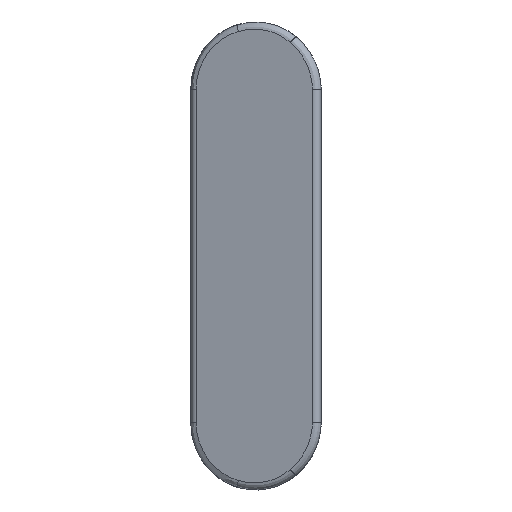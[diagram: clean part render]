
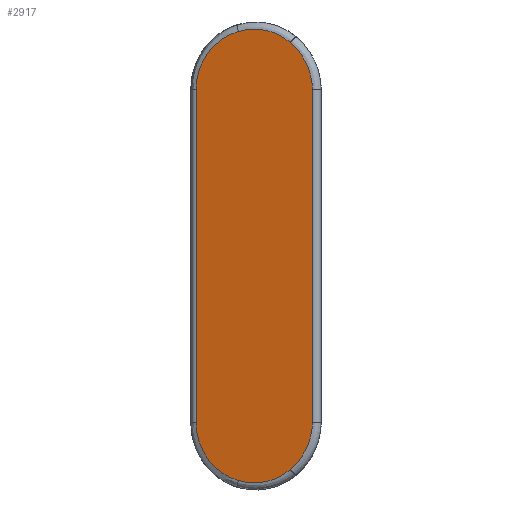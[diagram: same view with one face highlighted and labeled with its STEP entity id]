
A CAD part, front view. The second image highlights one B-rep face of the part: STEP entity #2917.
In plain terms, the highlighted planar face has unit normal (-0.25, -0.968, 0).
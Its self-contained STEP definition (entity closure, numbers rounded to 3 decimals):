
#76 = ORIENTED_EDGE ( 'NONE', *, *, #5474, .T. ) ;
#124 = B_SPLINE_CURVE_WITH_KNOTS ( 'NONE', 3,
 ( #2202, #3110, #5778, #4471, #3503, #5370, #4844, #4043 ),
 .UNSPECIFIED., .F., .F.,
 ( 4, 2, 2, 4 ),
 ( 0., 0.307, 0.614, 1. ),
 .UNSPECIFIED. ) ;
#138 = EDGE_CURVE ( 'NONE', #3152, #882, #4917, .T. ) ;
#354 = B_SPLINE_CURVE_WITH_KNOTS ( 'NONE', 3,
 ( #3038, #861, #4370, #4832, #1721, #427 ),
 .UNSPECIFIED., .F., .F.,
 ( 4, 2, 4 ),
 ( 0., 0.5, 1. ),
 .UNSPECIFIED. ) ;
#356 = CARTESIAN_POINT ( 'NONE',  ( -550.47, -317.78, 44.061 ) ) ;
#414 = CARTESIAN_POINT ( 'NONE',  ( -561.403, -314.963, 35.538 ) ) ;
#424 = ORIENTED_EDGE ( 'NONE', *, *, #5506, .T. ) ;
#427 = CARTESIAN_POINT ( 'NONE',  ( -553.743, -316.937, 37.157 ) ) ;
#593 = VERTEX_POINT ( 'NONE', #4141 ) ;
#604 = CARTESIAN_POINT ( 'NONE',  ( -550.47, -317.78, 93.223 ) ) ;
#745 = CARTESIAN_POINT ( 'NONE',  ( -553.735, -316.939, 37.164 ) ) ;
#835 = CARTESIAN_POINT ( 'NONE',  ( -550.47, -317.78, 44.061 ) ) ;
#861 = CARTESIAN_POINT ( 'NONE',  ( -560.087, -315.302, 35.157 ) ) ;
#882 = VERTEX_POINT ( 'NONE', #1033 ) ;
#1015 = CARTESIAN_POINT ( 'NONE',  ( -550.47, -317.78, 95.844 ) ) ;
#1033 = CARTESIAN_POINT ( 'NONE',  ( -567.609, -313.363, 93.223 ) ) ;
#1101 = CARTESIAN_POINT ( 'NONE',  ( -567.609, -313.363, 44.061 ) ) ;
#1103 = CARTESIAN_POINT ( 'NONE',  ( -561.403, -314.963, 101.746 ) ) ;
#1110 = CARTESIAN_POINT ( 'NONE',  ( -553.712, -316.945, 100.101 ) ) ;
#1117 = B_SPLINE_CURVE_WITH_KNOTS ( 'NONE', 3,
 ( #604, #1015, #2819, #5424 ),
 .UNSPECIFIED., .F., .F.,
 ( 4, 4 ),
 ( 0., 1. ),
 .UNSPECIFIED. ) ;
#1214 = CARTESIAN_POINT ( 'NONE',  ( -550.47, -317.78, 93.223 ) ) ;
#1223 = VERTEX_POINT ( 'NONE', #3321 ) ;
#1281 = CARTESIAN_POINT ( 'NONE',  ( -561.403, -314.963, 35.538 ) ) ;
#1483 = ORIENTED_EDGE ( 'NONE', *, *, #3031, .T. ) ;
#1519 = CARTESIAN_POINT ( 'NONE',  ( -567.609, -313.363, 95.147 ) ) ;
#1574 = CARTESIAN_POINT ( 'NONE',  ( -553.712, -316.945, 37.183 ) ) ;
#1652 = ORIENTED_EDGE ( 'NONE', *, *, #4833, .T. ) ;
#1661 = CARTESIAN_POINT ( 'NONE',  ( -563.197, -314.5, 36.059 ) ) ;
#1664 = CARTESIAN_POINT ( 'NONE',  ( -556.055, -316.341, 101.641 ) ) ;
#1721 = CARTESIAN_POINT ( 'NONE',  ( -554.802, -316.664, 36.263 ) ) ;
#1756 = CARTESIAN_POINT ( 'NONE',  ( -551.733, -317.455, 38.869 ) ) ;
#1835 = VERTEX_POINT ( 'NONE', #835 ) ;
#1931 = EDGE_CURVE ( 'NONE', #4970, #3152, #5062, .T. ) ;
#2094 = CARTESIAN_POINT ( 'NONE',  ( -567.609, -313.363, 42.137 ) ) ;
#2202 = CARTESIAN_POINT ( 'NONE',  ( -553.712, -316.945, 100.101 ) ) ;
#2249 = CARTESIAN_POINT ( 'NONE',  ( -567.609, -313.363, 93.223 ) ) ;
#2360 = ORIENTED_EDGE ( 'NONE', *, *, #3333, .T. ) ;
#2460 = CARTESIAN_POINT ( 'NONE',  ( -553.743, -316.937, 37.157 ) ) ;
#2489 = ORIENTED_EDGE ( 'NONE', *, *, #2569, .T. ) ;
#2569 = EDGE_CURVE ( 'NONE', #4506, #4970, #124, .T. ) ;
#2582 = CARTESIAN_POINT ( 'NONE',  ( -560.087, -315.302, 102.127 ) ) ;
#2794 = CARTESIAN_POINT ( 'NONE',  ( -566.996, -313.521, 97.018 ) ) ;
#2819 = CARTESIAN_POINT ( 'NONE',  ( -551.732, -317.455, 98.414 ) ) ;
#2898 = CARTESIAN_POINT ( 'NONE',  ( -553.728, -316.941, 37.17 ) ) ;
#2917 = ADVANCED_FACE ( 'NONE', ( #3806 ), #5140, .T. ) ;
#2923 = CARTESIAN_POINT ( 'NONE',  ( -553.725, -316.942, 37.173 ) ) ;
#2959 = B_SPLINE_CURVE_WITH_KNOTS ( 'NONE', 3,
 ( #3973, #1756, #4002, #4061 ),
 .UNSPECIFIED., .F., .F.,
 ( 4, 4 ),
 ( 0., 1. ),
 .UNSPECIFIED. ) ;
#2999 = EDGE_CURVE ( 'NONE', #1223, #1835, #2959, .T. ) ;
#3015 = LINE ( 'NONE', #2249, #4912 ) ;
#3031 = EDGE_CURVE ( 'NONE', #882, #5181, #3015, .T. ) ;
#3038 = CARTESIAN_POINT ( 'NONE',  ( -561.403, -314.963, 35.538 ) ) ;
#3110 = CARTESIAN_POINT ( 'NONE',  ( -553.715, -316.944, 100.103 ) ) ;
#3131 = CARTESIAN_POINT ( 'NONE',  ( -553.743, -316.937, 100.127 ) ) ;
#3152 = VERTEX_POINT ( 'NONE', #4548 ) ;
#3157 = EDGE_LOOP ( 'NONE', ( #1483, #424, #76, #2360, #5444, #3990, #1652, #2489, #4851, #5184 ) ) ;
#3166 = B_SPLINE_CURVE_WITH_KNOTS ( 'NONE', 3,
 ( #2460, #5537, #745, #2898, #2923, #4719, #4233, #1574 ),
 .UNSPECIFIED., .F., .F.,
 ( 4, 2, 2, 4 ),
 ( 0., 0.386, 0.693, 1. ),
 .UNSPECIFIED. ) ;
#3228 = CARTESIAN_POINT ( 'NONE',  ( -567.609, -313.363, 93.223 ) ) ;
#3253 = CARTESIAN_POINT ( 'NONE',  ( -553.743, -316.937, 100.127 ) ) ;
#3321 = CARTESIAN_POINT ( 'NONE',  ( -553.712, -316.945, 37.183 ) ) ;
#3333 = EDGE_CURVE ( 'NONE', #593, #1223, #3166, .T. ) ;
#3462 = CARTESIAN_POINT ( 'NONE',  ( -558.697, -315.66, 102.195 ) ) ;
#3503 = CARTESIAN_POINT ( 'NONE',  ( -553.728, -316.941, 100.114 ) ) ;
#3504 = LINE ( 'NONE', #356, #5113 ) ;
#3775 = CARTESIAN_POINT ( 'NONE',  ( -564.772, -314.095, 100.082 ) ) ;
#3806 = FACE_OUTER_BOUND ( 'NONE', #3157, .T. ) ;
#3836 = CARTESIAN_POINT ( 'NONE',  ( -568.654, -313.094, 104.42 ) ) ;
#3913 = CARTESIAN_POINT ( 'NONE',  ( -566.996, -313.521, 40.266 ) ) ;
#3973 = CARTESIAN_POINT ( 'NONE',  ( -553.712, -316.945, 37.183 ) ) ;
#3990 = ORIENTED_EDGE ( 'NONE', *, *, #4050, .T. ) ;
#4002 = CARTESIAN_POINT ( 'NONE',  ( -550.47, -317.78, 41.439 ) ) ;
#4043 = CARTESIAN_POINT ( 'NONE',  ( -553.743, -316.937, 100.127 ) ) ;
#4050 = EDGE_CURVE ( 'NONE', #1835, #4566, #3504, .T. ) ;
#4061 = CARTESIAN_POINT ( 'NONE',  ( -550.47, -317.78, 44.061 ) ) ;
#4141 = CARTESIAN_POINT ( 'NONE',  ( -553.743, -316.937, 37.157 ) ) ;
#4233 = CARTESIAN_POINT ( 'NONE',  ( -553.715, -316.944, 37.181 ) ) ;
#4270 = DIRECTION ( 'NONE',  ( -0.25, -0.968, 0. ) ) ;
#4277 = AXIS2_PLACEMENT_3D ( 'NONE', #3836, #4270, #4299 ) ;
#4289 = VERTEX_POINT ( 'NONE', #414 ) ;
#4299 = DIRECTION ( 'NONE',  ( -0.968, 0.25, 0. ) ) ;
#4349 = CARTESIAN_POINT ( 'NONE',  ( -554.802, -316.664, 101.021 ) ) ;
#4370 = CARTESIAN_POINT ( 'NONE',  ( -558.697, -315.66, 35.089 ) ) ;
#4374 = CARTESIAN_POINT ( 'NONE',  ( -561.403, -314.963, 101.746 ) ) ;
#4471 = CARTESIAN_POINT ( 'NONE',  ( -553.725, -316.942, 100.112 ) ) ;
#4506 = VERTEX_POINT ( 'NONE', #1110 ) ;
#4531 = B_SPLINE_CURVE_WITH_KNOTS ( 'NONE', 3,
 ( #5304, #2094, #3913, #5676, #1661, #1281 ),
 .UNSPECIFIED., .F., .F.,
 ( 4, 2, 4 ),
 ( 0., 0.5, 1. ),
 .UNSPECIFIED. ) ;
#4548 = CARTESIAN_POINT ( 'NONE',  ( -561.403, -314.963, 101.746 ) ) ;
#4566 = VERTEX_POINT ( 'NONE', #1214 ) ;
#4665 = CARTESIAN_POINT ( 'NONE',  ( -563.197, -314.5, 101.226 ) ) ;
#4719 = CARTESIAN_POINT ( 'NONE',  ( -553.718, -316.943, 37.178 ) ) ;
#4761 = DIRECTION ( 'NONE',  ( 0., 0., 1. ) ) ;
#4832 = CARTESIAN_POINT ( 'NONE',  ( -556.055, -316.341, 35.644 ) ) ;
#4833 = EDGE_CURVE ( 'NONE', #4566, #4506, #1117, .T. ) ;
#4844 = CARTESIAN_POINT ( 'NONE',  ( -553.739, -316.938, 100.124 ) ) ;
#4851 = ORIENTED_EDGE ( 'NONE', *, *, #1931, .T. ) ;
#4912 = VECTOR ( 'NONE', #5769, 1000. ) ;
#4917 = B_SPLINE_CURVE_WITH_KNOTS ( 'NONE', 3,
 ( #1103, #4665, #3775, #2794, #1519, #3228 ),
 .UNSPECIFIED., .F., .F.,
 ( 4, 2, 4 ),
 ( 0., 0.5, 1. ),
 .UNSPECIFIED. ) ;
#4970 = VERTEX_POINT ( 'NONE', #3253 ) ;
#5062 = B_SPLINE_CURVE_WITH_KNOTS ( 'NONE', 3,
 ( #3131, #4349, #1664, #3462, #2582, #4374 ),
 .UNSPECIFIED., .F., .F.,
 ( 4, 2, 4 ),
 ( 0., 0.5, 1. ),
 .UNSPECIFIED. ) ;
#5113 = VECTOR ( 'NONE', #4761, 1000. ) ;
#5140 = PLANE ( 'NONE',  #4277 ) ;
#5181 = VERTEX_POINT ( 'NONE', #1101 ) ;
#5184 = ORIENTED_EDGE ( 'NONE', *, *, #138, .T. ) ;
#5304 = CARTESIAN_POINT ( 'NONE',  ( -567.609, -313.363, 44.061 ) ) ;
#5370 = CARTESIAN_POINT ( 'NONE',  ( -553.735, -316.939, 100.12 ) ) ;
#5424 = CARTESIAN_POINT ( 'NONE',  ( -553.712, -316.945, 100.101 ) ) ;
#5444 = ORIENTED_EDGE ( 'NONE', *, *, #2999, .T. ) ;
#5474 = EDGE_CURVE ( 'NONE', #4289, #593, #354, .T. ) ;
#5506 = EDGE_CURVE ( 'NONE', #5181, #4289, #4531, .T. ) ;
#5537 = CARTESIAN_POINT ( 'NONE',  ( -553.739, -316.938, 37.16 ) ) ;
#5676 = CARTESIAN_POINT ( 'NONE',  ( -564.772, -314.095, 37.202 ) ) ;
#5769 = DIRECTION ( 'NONE',  ( 0., 0., -1. ) ) ;
#5778 = CARTESIAN_POINT ( 'NONE',  ( -553.718, -316.943, 100.106 ) ) ;
